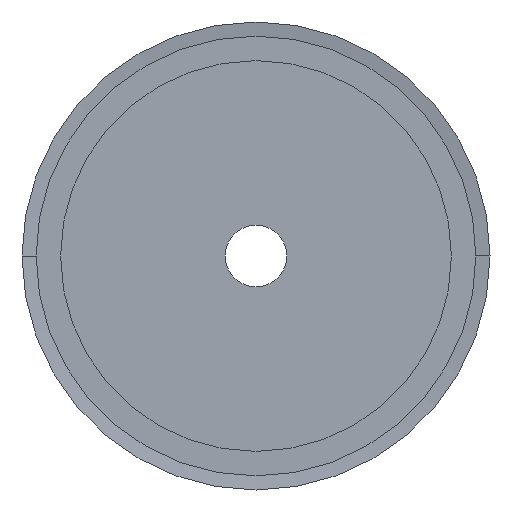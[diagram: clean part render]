
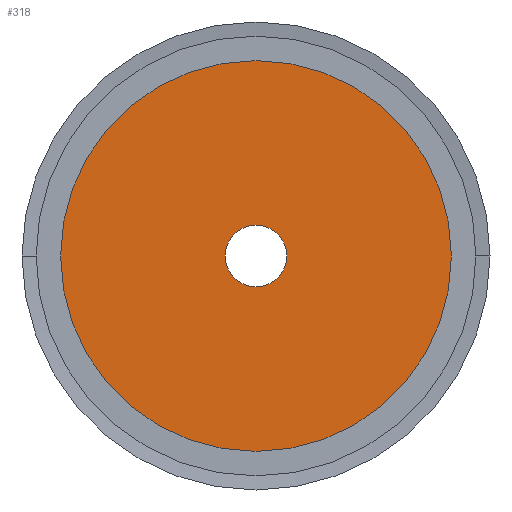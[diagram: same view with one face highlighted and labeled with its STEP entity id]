
A CAD part, left-side view. The second image highlights one B-rep face of the part: STEP entity #318.
In plain terms, the highlighted planar face has unit normal (-1, 0, 0).
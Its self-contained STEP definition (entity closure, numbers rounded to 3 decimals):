
#318 = ADVANCED_FACE( '', ( #812, #813 ), #814, .T. );
#812 = FACE_BOUND( '', #1307, .T. );
#813 = FACE_OUTER_BOUND( '', #1308, .T. );
#814 = PLANE( '', #1309 );
#1307 = EDGE_LOOP( '', ( #3441, #3442 ) );
#1308 = EDGE_LOOP( '', ( #3443, #3444 ) );
#1309 = AXIS2_PLACEMENT_3D( '', #3445, #3446, #3447 );
#3441 = ORIENTED_EDGE( '', *, *, #4145, .F. );
#3442 = ORIENTED_EDGE( '', *, *, #3463, .F. );
#3443 = ORIENTED_EDGE( '', *, *, #3451, .T. );
#3444 = ORIENTED_EDGE( '', *, *, #4150, .T. );
#3445 = CARTESIAN_POINT( '', ( 0., 22., 0. ) );
#3446 = DIRECTION( '', ( -1., 0., 0. ) );
#3447 = DIRECTION( '', ( 0., 1., 0. ) );
#3451 = EDGE_CURVE( '', #4152, #4156, #4158, .T. );
#3463 = EDGE_CURVE( '', #4180, #4176, #4182, .T. );
#4145 = EDGE_CURVE( '', #4176, #4180, #5314, .T. );
#4150 = EDGE_CURVE( '', #4156, #4152, #5319, .T. );
#4152 = VERTEX_POINT( '', #5321 );
#4156 = VERTEX_POINT( '', #5326 );
#4158 = CIRCLE( '', #5329, 38. );
#4176 = VERTEX_POINT( '', #5351 );
#4180 = VERTEX_POINT( '', #5356 );
#4182 = CIRCLE( '', #5359, 6. );
#5314 = CIRCLE( '', #6882, 6. );
#5319 = CIRCLE( '', #6887, 38. );
#5321 = CARTESIAN_POINT( '', ( 0., 38., 0. ) );
#5326 = CARTESIAN_POINT( '', ( 0., -38., 0. ) );
#5329 = AXIS2_PLACEMENT_3D( '', #6893, #6894, #6895 );
#5351 = CARTESIAN_POINT( '', ( 0., 6., 0. ) );
#5356 = CARTESIAN_POINT( '', ( 0., -6., 0. ) );
#5359 = AXIS2_PLACEMENT_3D( '', #6917, #6918, #6919 );
#6882 = AXIS2_PLACEMENT_3D( '', #8181, #8182, #8183 );
#6887 = AXIS2_PLACEMENT_3D( '', #8196, #8197, #8198 );
#6893 = CARTESIAN_POINT( '', ( 0., 0., 0. ) );
#6894 = DIRECTION( '', ( -1., 0., 0. ) );
#6895 = DIRECTION( '', ( 0., 1., 0. ) );
#6917 = CARTESIAN_POINT( '', ( 0., 0., 0. ) );
#6918 = DIRECTION( '', ( -1., 0., 0. ) );
#6919 = DIRECTION( '', ( 0., 1., 0. ) );
#8181 = CARTESIAN_POINT( '', ( 0., 0., 0. ) );
#8182 = DIRECTION( '', ( -1., 0., 0. ) );
#8183 = DIRECTION( '', ( 0., 1., 0. ) );
#8196 = CARTESIAN_POINT( '', ( 0., 0., 0. ) );
#8197 = DIRECTION( '', ( -1., 0., 0. ) );
#8198 = DIRECTION( '', ( 0., 1., 0. ) );
